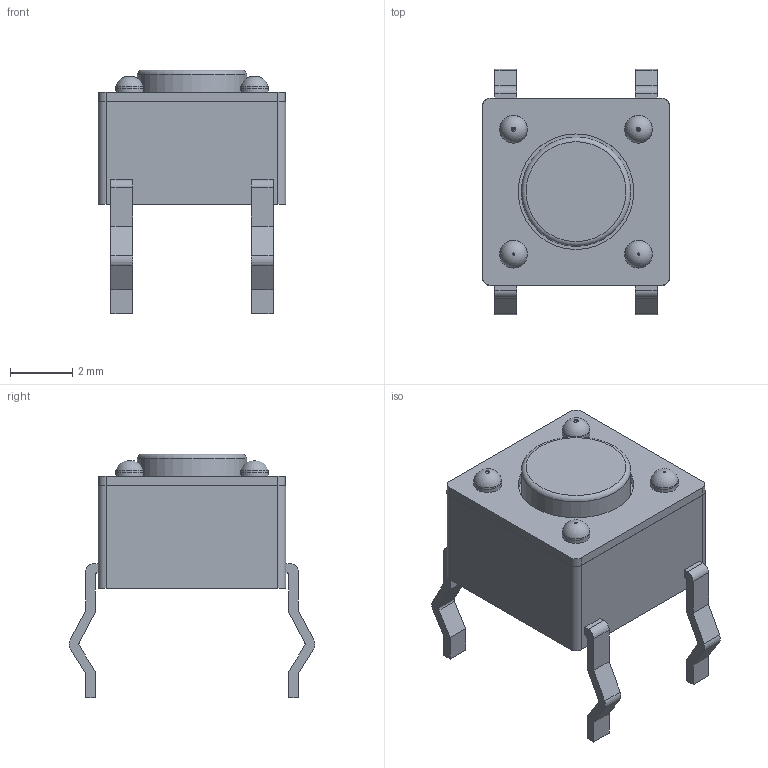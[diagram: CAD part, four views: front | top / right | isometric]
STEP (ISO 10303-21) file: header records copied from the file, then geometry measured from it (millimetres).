
FILE_DESCRIPTION(/* description */ ('Unknown'),/* implementation_level */ '2;1');
FILE_NAME(/* name */ 'MJTP1230',/* time_stamp */ '2024-11-05T09:29:42+02:00',/* author */ ('Unknown'),/* organization */ ('Unknown'),/* preprocessor_version */ 'ST-DEVELOPER v19.4',/* originating_system */ 'Solid Edge',/* authorisation */ 'Unknown');
FILE_SCHEMA (('AUTOMOTIVE_DESIGN {1 0 10303 214 3 1 1}'));
Length unit declared in the file: millimetre
Products named in the file (1): MJTP1230
Bounding box: 6 x 7.87 x 7.8 mm (x, y, z)
Volume: 139.4 mm3; surface area: 219 mm2
Topology: 1 solids, 1 shells, 104 faces, 279 edges, 184 vertices
Faces by surface type: plane 65, cylinder 30, torus 9
Full cylindrical faces by diameter (mm): 0.891 x4, 3.5 x1, 3.7 x1
Entity records: 3870 total; most frequent: CARTESIAN_POINT 543, DIRECTION 532, ORIENTED_EDGE 514, EDGE_CURVE 257, LINE 192, VECTOR 192, VERTEX_POINT 181, AXIS2_PLACEMENT_3D 170
